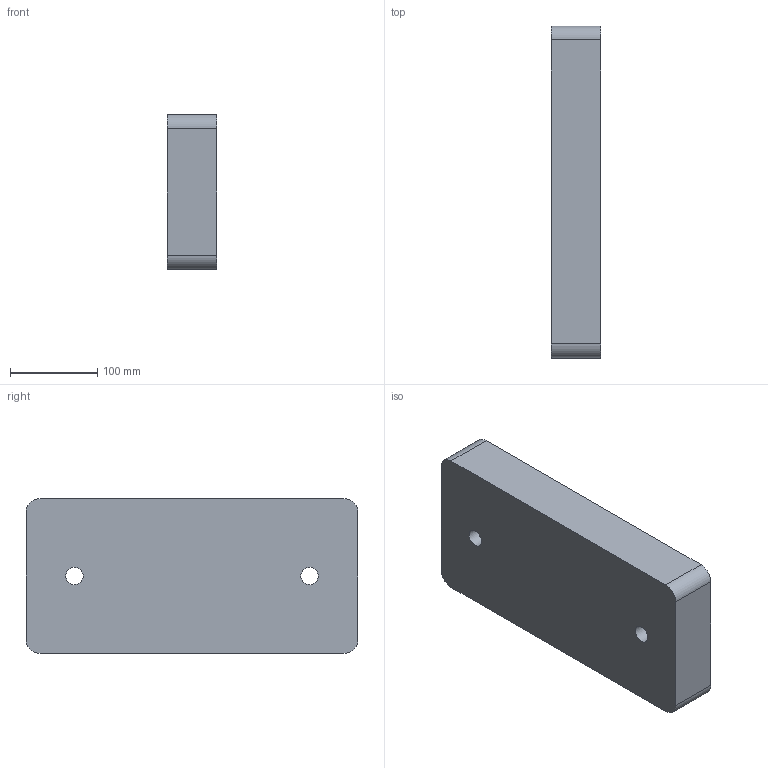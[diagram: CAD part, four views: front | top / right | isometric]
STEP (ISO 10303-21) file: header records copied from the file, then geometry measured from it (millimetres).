
FILE_DESCRIPTION(/* description */ (''),/* implementation_level */ '2;1');
FILE_NAME(/* name */ '/Users/aaronb/Desktop/001-P3.step',/* time_stamp */ '2021-06-01T21:32:12-04:00',/* author */ (''),/* organization */ (''),/* preprocessor_version */ 'ST-DEVELOPER v18.1',/* originating_system */ 'Autodesk Translation Framework v10.9.0.1377',/* authorisation */ '');
FILE_SCHEMA (('AUTOMOTIVE_DESIGN { 1 0 10303 214 3 1 1 }'));
Length unit declared in the file: millimetre
Products named in the file (1): 001-P3
Bounding box: 57.15 x 381 x 177.8 mm (x, y, z)
Volume: 3728740.4 mm3; surface area: 250591.4 mm2
Topology: 1 solids, 1 shells, 33 faces, 90 edges, 60 vertices
Faces by surface type: plane 19, cylinder 14
Full cylindrical faces by diameter (mm): 20 x2
Entity records: 1093 total; most frequent: DIRECTION 186, CARTESIAN_POINT 184, ORIENTED_EDGE 180, EDGE_CURVE 90, LINE 62, VECTOR 62, AXIS2_PLACEMENT_3D 62, VERTEX_POINT 60
